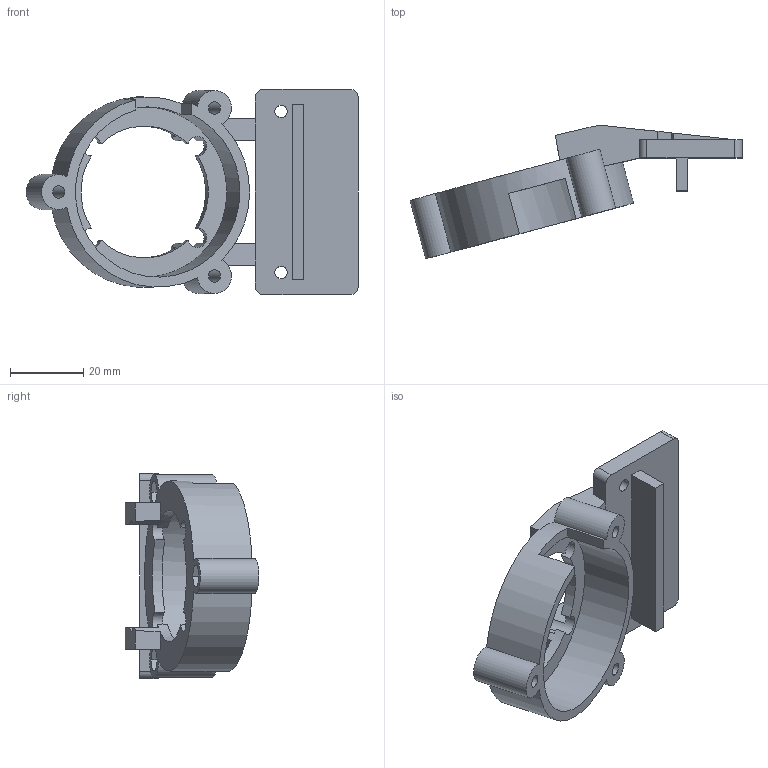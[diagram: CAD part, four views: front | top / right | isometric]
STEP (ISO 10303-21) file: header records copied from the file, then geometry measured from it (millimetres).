
FILE_DESCRIPTION(('Open CASCADE Model'),'2;1');
FILE_NAME('Open CASCADE Shape Model','2026-09-09T11:39:49',('Author'),( 'Open CASCADE'),'Open CASCADE STEP processor 7.9','Open CASCADE 7.9' ,'Unknown');
FILE_SCHEMA(('AUTOMOTIVE_DESIGN { 1 0 10303 214 1 1 1 1 }'));
Length unit declared in the file: millimetre
Products named in the file (1): Open CASCADE STEP translator 7.9 1
Bounding box: 90.68 x 36.53 x 56 mm (x, y, z)
Volume: 21989.6 mm3; surface area: 14433.8 mm2
Topology: 1 solids, 1 shells, 97 faces, 278 edges, 184 vertices
Faces by surface type: plane 73, cylinder 24
Full cylindrical faces by diameter (mm): 3.4 x5, 46.5 x1
Entity records: 6966 total; most frequent: CARTESIAN_POINT 1398, DIRECTION 1048, LINE 692, VECTOR 692, ORIENTED_EDGE 556, PCURVE 556, DEFINITIONAL_REPRESENTATION 556, EDGE_CURVE 278
